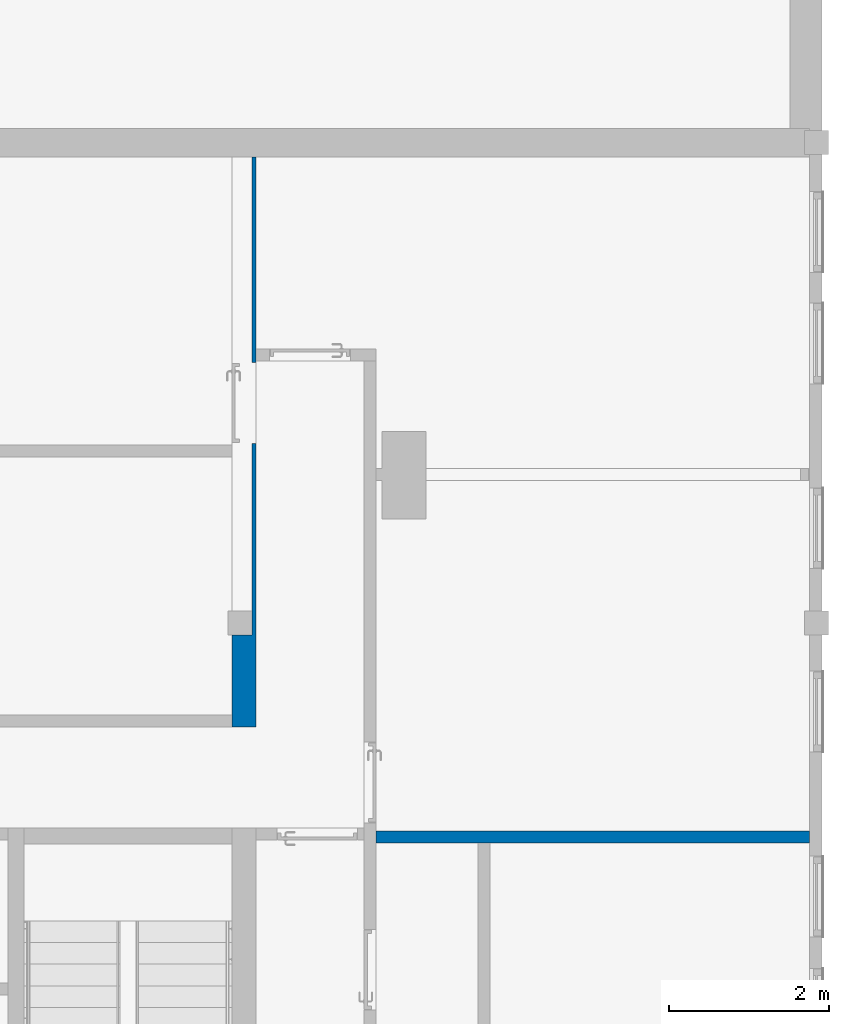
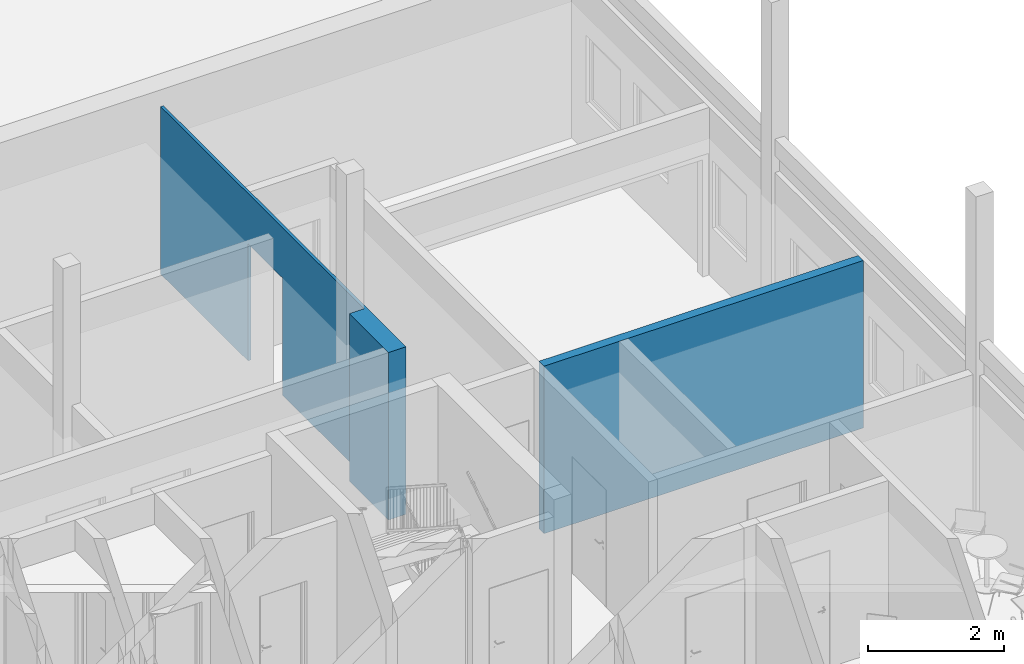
# One storey, part 34 of 58: 2 walls, 1 opening.
"""IFC2X3 building model written with IfcOpenShell, lengths in millimetres."""

from ifc_helpers import new_model, entity, si_unit, converted_unit, derived_unit, direction, frame, frame_2d, origin, place, context, subcontext, project, spatial, polyline, rectangle, extrude, clip, bounded_halfspace, material, layer, layer_set, layer_usage, type_object, element, save


model = new_model("IFC2X3")

# Units and contexts
model_context = context("Model", 3, precision=0.01, world=origin(), true_north=direction((0.7716245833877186, 0.6360782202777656)))
body_context = subcontext(model_context, "Body", "Model", "MODEL_VIEW")
ifc_project = project(units=[si_unit("LENGTHUNIT", "METRE", prefix="MILLI"), si_unit("AREAUNIT", "SQUARE_METRE"), converted_unit("PLANEANGLEUNIT", "DEGREE", entity("IfcPlaneAngleMeasure", 0.017453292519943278), si_unit("PLANEANGLEUNIT", "RADIAN"), dimensions=[0, 0, 0, 0, 0, 0, 0]), derived_unit("THERMALTRANSMITTANCEUNIT", [(si_unit("MASSUNIT", "GRAM", prefix="KILO"), 1), (si_unit("THERMODYNAMICTEMPERATUREUNIT", "KELVIN"), -1), (si_unit("TIMEUNIT", "SECOND"), -3)])], contexts=[model_context])

# Site, building, storey
site_placement = place(None, origin())
site = spatial("IfcSite", under=ifc_project, at=site_placement, Name="Default", CompositionType="ELEMENT")
building_placement = place(site_placement, origin())
building = spatial("IfcBuilding", under=site, at=building_placement, CompositionType="ELEMENT")
storey_placement = place(building_placement, frame((0.0, 0.0, 31140.0)))
storey = spatial("IfcBuildingStorey", under=building, at=storey_placement, Name="PLAN U1", CompositionType="ELEMENT", Elevation=31140.000000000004)

# Wall
ifc_material_1 = material(Name="Eksist. vegg")
ifc_layer_1 = layer(ifc_material_1, 150.0)
ifc_layer_set_1 = layer_set([ifc_layer_1], Name="Basic Wall:240 Eksist. Innervegg 150 mm")
ifc_layer_usage_1 = layer_usage(ifc_layer_set_1, "AXIS2", "NEGATIVE", 75.0)
wall_type_1 = type_object("IfcWallType", Name="Basic Wall:240 Eksist. Innervegg 150 mm", PredefinedType="STANDARD", material=ifc_layer_set_1)
wall_1_placement = place(storey_placement, frame((272417.924446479, 62645.723071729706, 0.0)))
element("IfcWallStandardCase", 1, at=wall_1_placement, inside=storey, type_object=wall_type_1, material=ifc_layer_usage_1, Name="Basic Wall:240 Eksist. Innervegg 150 mm", ObjectType="Basic Wall:240 Eksist. Innervegg 150 mm", context=body_context, shape_type="SweptSolid", body=[
    extrude(rectangle(XDim=5412.332901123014, YDim=150.00000000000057, at=frame_2d((2706.166450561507, -1.9184653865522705e-13), x_axis=(-1.0, 0.0))), origin(), (0.0, 0.0, 1.0), 2999.9999999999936),
])

# Wall, opening
ifc_material_2 = material(Name="<Unnamed>")
ifc_layer_2 = layer(ifc_material_2, 300.0)
ifc_layer_set_2 = layer_set([ifc_layer_2], Name="Basic Wall:240 Eksist. innervegg 300 mm")
ifc_layer_usage_2 = layer_usage(ifc_layer_set_2, "AXIS2", "NEGATIVE", 150.0)
wall_type_2 = type_object("IfcWallType", Name="Basic Wall:240 Eksist. innervegg 300 mm", PredefinedType="STANDARD", material=ifc_layer_set_2)
wall_2_placement = place(storey_placement, frame((270767.924446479, 71135.25555007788, 0.0), z_axis=(0.0, 0.0, 1.0), x_axis=(0.0, -1.0, 0.0)))
wall_2 = element("IfcWallStandardCase", 2, at=wall_2_placement, inside=storey, type_object=wall_type_2, material=ifc_layer_usage_2, Name="Basic Wall:240 Eksist. innervegg 300 mm", ObjectType="Basic Wall:240 Eksist. innervegg 300 mm", context=body_context, shape_type="Clipping", body=[
    clip(extrude(rectangle(XDim=7120.000000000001, YDim=300.0000000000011, at=frame_2d((3560.0000000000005, 0.0), x_axis=(-1.0, 0.0))), origin(), (0.0, 0.0, 1.0), 2999.9999999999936), bounded_halfspace(frame((5970.0, 100.0, 0.0), z_axis=(0.0, 1.0, 0.0), x_axis=(0.0, 0.0, -1.0)), True, frame((5970.0, 100.0, 0.0), z_axis=(0.0, 1.0, 0.0), x_axis=(0.0, 0.0, -1.0)), polyline([(0.0, 0.0), (0.0, 91440.0), (-914400.0, 91440.0), (-914400.0, 0.0), (0.0, 0.0)]))),
])
opening_placement = place(wall_2_placement, frame((3575.0, 150.0, 0.0)))
element("IfcOpeningElement", 3, at=opening_placement, cuts=wall_2, Name="Enfløyet:2441 Innvendig 10x21M:1", ObjectType="Opening", context=body_context, shape_type="SweptSolid", body=[
    extrude(rectangle(XDim=2100.0, YDim=1009.9999999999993, at=frame_2d((1049.9999999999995, 504.9999999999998), x_axis=(1.0, 0.0))), frame((0.0, 0.0, 0.0), z_axis=(0.0, -1.0, 0.0), x_axis=(0.0, 0.0, 1.0)), (0.0, 0.0, 1.0), 300.0),
])

save(model, "model.ifc")
